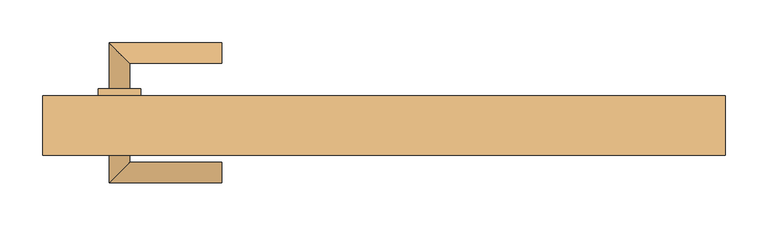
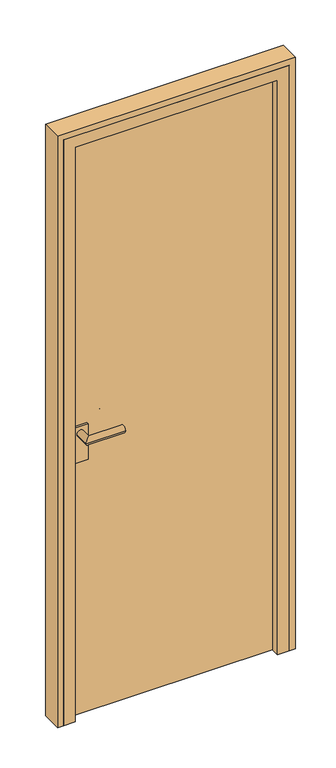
"""IFC4 building model written with IfcOpenShell, lengths in millimetres: door geometry, Дверь однопольная : дерев.внутр.глух 8х21 Л."""

from ifc_helpers import new_model, si_unit, frame, origin, origin_with_axes, place, context, project, spatial, polyline, circle_curve, ellipse_curve, outline, extrude, faceted_brep, source, transform, mapped, element, save
from ifc_brep_helpers import plane_surface, cylinder_surface, advanced_brep


def door_2db64911(model_context):
    return source(origin(), model_context, "Body", "SolidModel", [
        advanced_brep(
        [(-190.0, 122.0, 1000.0), (-190.0, 98.0, 1000.0), (-322.0, 122.0, 1000.0), (-298.0, 98.0, 1000.0), (-322.0, 68.0, 1000.0), (-298.0, 68.0, 1000.0), (-322.0, -42.0, 1000.0), (-298.0, -18.0, 1000.0), (-298.0, 12.0, 1000.0), (-322.0, 12.0, 1000.0), (-190.0, -42.0, 1000.0), (-190.0, -18.0, 1000.0), (-335.0, 68.0, 1025.0), (-285.0, 68.0, 1025.0), (-285.0, 68.0, 900.0), (-335.0, 68.0, 900.0), (-335.0, 12.0, 1025.0), (-335.0, 12.0, 900.0), (-285.0, 12.0, 900.0), (-285.0, 12.0, 1025.0)],
        [
            (0, 1, circle_curve(frame((-190.0, 110.0, 1000.0), z_axis=(1.0, 0.0, 0.0), x_axis=(0.0, -1.0, 0.0)), 12.0)),
            (1, 0, circle_curve(frame((-190.0, 110.0, 1000.0), z_axis=(1.0, 0.0, 0.0), x_axis=(0.0, -1.0, 0.0)), 12.0)),
            (0, 2),
            (2, 3, ellipse_curve(frame((-310.0, 110.0, 1000.0), z_axis=(0.7071067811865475, 0.7071067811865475, 0.0), x_axis=(0.7071067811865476, -0.7071067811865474, 0.0)), 16.9705627, 12.0)),
            (3, 1),
            (3, 2, ellipse_curve(frame((-310.0, 110.0, 1000.0), z_axis=(0.7071067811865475, 0.7071067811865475, 0.0), x_axis=(0.7071067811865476, -0.7071067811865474, 0.0)), 16.9705627, 12.0)),
            (2, 4),
            (4, 5, circle_curve(frame((-310.0, 68.0, 1000.0), z_axis=(0.0, 1.0, 0.0), x_axis=(1.0, 0.0, 0.0)), 12.0)),
            (5, 3),
            (6, 7, ellipse_curve(frame((-310.0, -30.0, 1000.0), z_axis=(-0.7071067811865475, 0.7071067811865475, 0.0), x_axis=(0.7071067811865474, 0.7071067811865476, 0.0)), 16.9705627, 12.0)),
            (7, 8),
            (8, 9, circle_curve(frame((-310.0, 12.0, 1000.0), z_axis=(0.0, -1.0, 0.0), x_axis=(1.0, 0.0, 0.0)), 12.0)),
            (9, 6),
            (5, 4, circle_curve(frame((-310.0, 68.0, 1000.0), z_axis=(0.0, 1.0, 0.0), x_axis=(1.0, 0.0, 0.0)), 12.0)),
            (7, 6, ellipse_curve(frame((-310.0, -30.0, 1000.0), z_axis=(-0.7071067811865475, 0.7071067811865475, 0.0), x_axis=(0.7071067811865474, 0.7071067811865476, 0.0)), 16.9705627, 12.0)),
            (9, 8, circle_curve(frame((-310.0, 12.0, 1000.0), z_axis=(0.0, -1.0, 0.0), x_axis=(1.0, 0.0, 0.0)), 12.0)),
            (10, 11, circle_curve(frame((-190.0, -30.0, 1000.0), z_axis=(1.0, 0.0, 0.0), x_axis=(0.0, 1.0, 0.0)), 12.0)),
            (11, 10, circle_curve(frame((-190.0, -30.0, 1000.0), z_axis=(1.0, 0.0, 0.0), x_axis=(0.0, 1.0, 0.0)), 12.0)),
            (6, 10),
            (11, 7),
            (12, 13),
            (13, 14),
            (14, 15),
            (15, 12),
            (16, 17),
            (17, 18),
            (18, 19),
            (19, 16),
            (15, 17),
            (16, 12),
            (14, 18),
            (13, 19),
        ],
        [
            plane_surface(frame((-190.0, 110.0, 1000.0), z_axis=(1.0, 0.0, 0.0), x_axis=(0.0, 0.0, 1.0))),
            cylinder_surface(frame((-190.0, 110.0, 1000.0), z_axis=(1.0, 0.0, 0.0), x_axis=(0.0, -1.0, 0.0)), 12.0),
            cylinder_surface(frame((-310.0, 110.0, 1000.0), z_axis=(0.0, 1.0, 0.0), x_axis=(1.0, 0.0, 0.0)), 12.0),
            plane_surface(frame((-190.0, -30.0, 1000.0), z_axis=(1.0, 0.0, 0.0), x_axis=(0.0, 0.0, 1.0))),
            cylinder_surface(frame((-310.0, -30.0, 1000.0), z_axis=(-1.0, 0.0, 0.0), x_axis=(0.0, 1.0, 0.0)), 12.0),
            plane_surface(frame((-335.0, 68.0, 1025.0), z_axis=(0.0, 1.0, 0.0), x_axis=(0.0, 0.0, 1.0))),
            plane_surface(frame((-335.0, 12.0, 1025.0), z_axis=(0.0, -1.0, 0.0), x_axis=(0.0, 0.0, -1.0))),
            plane_surface(frame((-335.0, 12.0, 1025.0), z_axis=(-1.0, 0.0, 0.0), x_axis=(0.0, 1.0, 0.0))),
            plane_surface(frame((-335.0, 12.0, 900.0), z_axis=(0.0, 0.0, -1.0), x_axis=(0.0, 1.0, 0.0))),
            plane_surface(frame((-285.0, 12.0, 900.0), z_axis=(1.0, 0.0, 0.0), x_axis=(0.0, 1.0, 0.0))),
            plane_surface(frame((-285.0, 12.0, 1025.0), z_axis=(0.0, 0.0, 1.0), x_axis=(0.0, 1.0, 0.0))),
        ],
        [
            (0, [[1, 2]]),
            (1, [[-1, 3, 4, 5]]),
            (1, [[-2, -5, 6, -3]]),
            (2, [[-4, 7, 8, 9]]),
            (2, [[10, 11, 12, 13]]),
            (2, [[-6, -9, 14, -7]]),
            (2, [[15, -13, 16, -11]]),
            (3, [[17, 18]]),
            (4, [[-10, 19, -18, 20]]),
            (4, [[-15, -20, -17, -19]]),
            (5, [[21, 22, 23, 24], [-8, -14]]),
            (6, [[25, 26, 27, 28], [-12, -16]]),
            (7, [[-24, 29, -25, 30]]),
            (8, [[-23, 31, -26, -29]]),
            (9, [[-22, 32, -27, -31]]),
            (10, [[-21, -30, -28, -32]]),
        ],
    ),
        extrude(outline(polyline([(350.0, 20.0), (-350.0, 20.0), (-350.0, 60.0), (350.0, 60.0), (350.0, 20.0)])), origin_with_axes(), (0.0, 0.0, 1.0), 2050.0),
        extrude(outline(polyline([(0.0, 400.0), (2100.0, 400.0), (2100.0, -400.0), (0.0, -400.0), (0.0, -380.0), (2080.0, -380.0), (2080.0, 380.0), (0.0, 380.0), (0.0, 400.0)])), frame((0.0, -10.0, 0.0), z_axis=(0.0, 1.0, 0.0), x_axis=(0.0, 0.0, 1.0)), (0.0, 0.0, 1.0), 70.0),
        faceted_brep([(-380.0, -10.0, 0.0), (-380.0, 60.0, 0.0), (-350.0, 60.0, 0.0), (-350.0, 20.0, 0.0), (-340.0, 20.0, 0.0), (-340.0, -10.0, 0.0), (-380.0, -10.0, 2080.0), (-380.0, 60.0, 2080.0), (380.0, 60.0, 2080.0), (380.0, 60.0, 0.0), (350.0, 60.0, 0.0), (350.0, 60.0, 2050.0), (-350.0, 60.0, 2050.0), (-350.0, 20.0, 2050.0), (350.0, 20.0, 2050.0), (350.0, 20.0, 0.0), (340.0, 20.0, 0.0), (340.0, 20.0, 2040.0), (-340.0, 20.0, 2040.0), (-340.0, -10.0, 2040.0), (340.0, -10.0, 2040.0), (340.0, -10.0, 0.0), (380.0, -10.0, 0.0), (380.0, -10.0, 2080.0)], [[[0, 1, 2, 3, 4, 5]], [[1, 0, 6, 7]], [[2, 1, 7, 8, 9, 10, 11, 12]], [[3, 2, 12, 13]], [[4, 3, 13, 14, 15, 16, 17, 18]], [[5, 4, 18, 19]], [[0, 5, 19, 20, 21, 22, 23, 6]], [[7, 6, 23, 8]], [[13, 12, 11, 14]], [[19, 18, 17, 20]], [[22, 21, 16, 15, 10, 9]], [[8, 23, 22, 9]], [[14, 11, 10, 15]], [[20, 17, 16, 21]]]),
    ])


if __name__ == "__main__":
    model = new_model("IFC4")
    model_context = context("Model", 3, world=origin())
    ifc_project = project(units=[si_unit("LENGTHUNIT", "METRE", prefix="MILLI")], contexts=[model_context])
    site = spatial("IfcSite", under=ifc_project)
    building = spatial("IfcBuilding", under=site)
    placement = place(None, origin())
    door_shape = door_2db64911(model_context)
    element("IfcDoor", 1, ObjectType="Дверь однопольная : дерев.внутр.глух 8х21 Л", at=placement, inside=building, context=model_context, shape_type="MappedRepresentation", body=[
        mapped(door_shape, transform((0.0, 0.0, 0.0), x_axis=(1.0, 0.0, 0.0), y_axis=(0.0, 1.0, 0.0), z_axis=(0.0, 0.0, 1.0))),
    ])
    save(model, "model.ifc")
